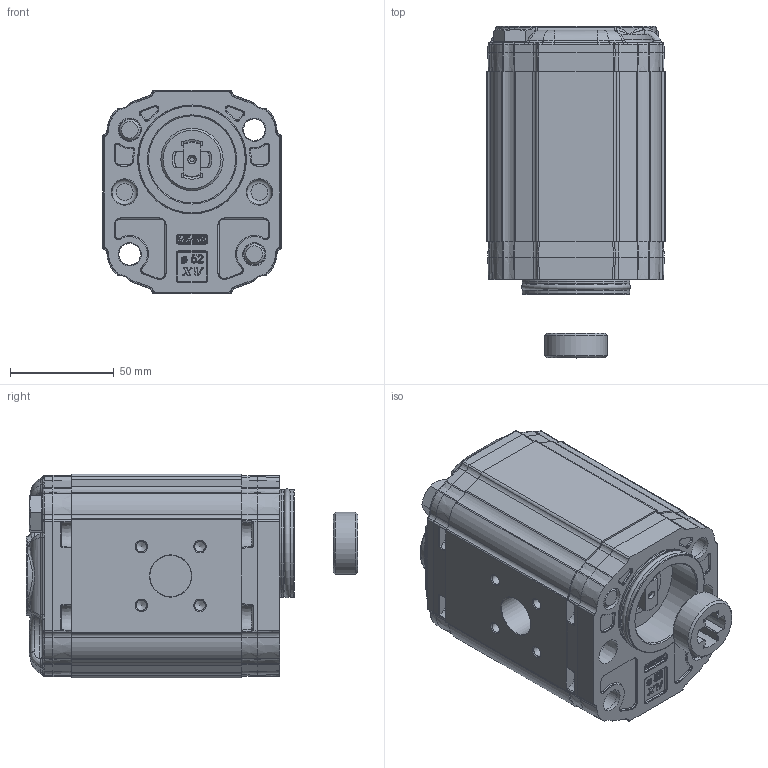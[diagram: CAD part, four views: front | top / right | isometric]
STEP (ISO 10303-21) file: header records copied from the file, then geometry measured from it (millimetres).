
FILE_DESCRIPTION(/* description */ ('Unknown'),/* implementation_level */ '2;1');
FILE_NAME(/* name */ 'X2M5719CSSE',/* time_stamp */ '2026-06-03T18:37:41+02:00',/* author */ ('Unknown'),/* organization */ ('Unknown'),/* preprocessor_version */ 'ST-DEVELOPER v16.7',/* originating_system */ 'Solid Edge',/* authorisation */ 'Unknown');
FILE_SCHEMA (('AUTOMOTIVE_DESIGN {1 0 10303 214 3 1 1}'));
Products named in the file (5): X2M5719CSSE; X2M19; 2C; X2SSH82; XM216-E
Assembly tree (4 placements, depth 2):
  X2M5719CSSE
    X2M19
    2C
    X2SSH82
    XM216-E
Bounding box: 86 x 160 x 98 mm (x, y, z)
Volume: 843790.3 mm3; surface area: 115408.2 mm2
Topology: 5 solids, 9 shells, 1893 faces, 4662 edges, 2823 vertices
Faces by surface type: cylinder 530, plane 477, bspline 427, cone 258, torus 141, sphere 60
Full cylindrical faces by diameter (mm): 2 x1, 5 x8, 10 x6, 10.5 x8, 11 x2, 11.445 x1, 16 x2, 16.8 x1, 17.42 x1, 20 x2, 23 x1, 25 x1, 30 x1, 42 x1, 47.8 x2, 52 x2
Entity records: 86915 total; most frequent: CARTESIAN_POINT 33224, ORIENTED_EDGE 8858, DIRECTION 7660, EDGE_CURVE 4429, AXIS2_PLACEMENT_3D 3073, VERTEX_POINT 2769, FACE_BOUND 2128, EDGE_LOOP 2119
